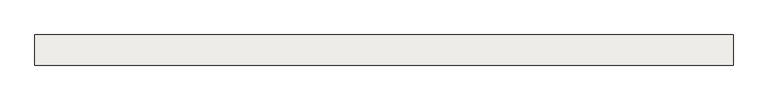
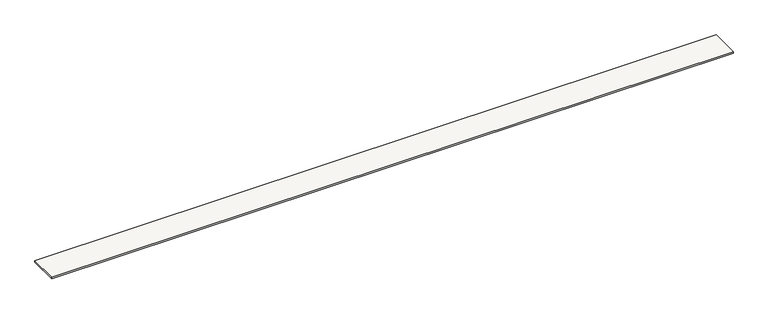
"""IFC4 building model written with IfcOpenShell, lengths in millimetres: slab geometry, Sol-02 - Tablette bois 2cm."""

from ifc_helpers import new_model, si_unit, origin, origin_with_axes, place, context, project, spatial, polyline, outline, extrude, source, transform, mapped, element, save


def slab_dd5b6d58(model_context):
    return source(origin(), model_context, "Body", "SweptSolid", [
        extrude(outline(polyline([(8119.9999996, 11002.3446595), (0.0, 11002.3446595), (0.0, 11352.3446595), (8119.9999996, 11352.3446595), (8119.9999996, 11002.3446595)])), origin_with_axes(), (0.0, 0.0, 1.0), 20.0),
    ])


if __name__ == "__main__":
    model = new_model("IFC4")
    model_context = context("Model", 3, world=origin())
    ifc_project = project(units=[si_unit("LENGTHUNIT", "METRE", prefix="MILLI")], contexts=[model_context])
    site = spatial("IfcSite", under=ifc_project)
    building = spatial("IfcBuilding", under=site)
    placement = place(None, origin())
    slab_shape = slab_dd5b6d58(model_context)
    element("IfcSlab", 1, ObjectType="Sol-02 - Tablette bois 2cm", at=placement, inside=building, context=model_context, shape_type="MappedRepresentation", body=[
        mapped(slab_shape, transform((0.0, 0.0, 0.0), x_axis=(1.0, 0.0, 0.0), y_axis=(0.0, 1.0, 0.0), z_axis=(0.0, 0.0, 1.0))),
    ])
    save(model, "model.ifc")
